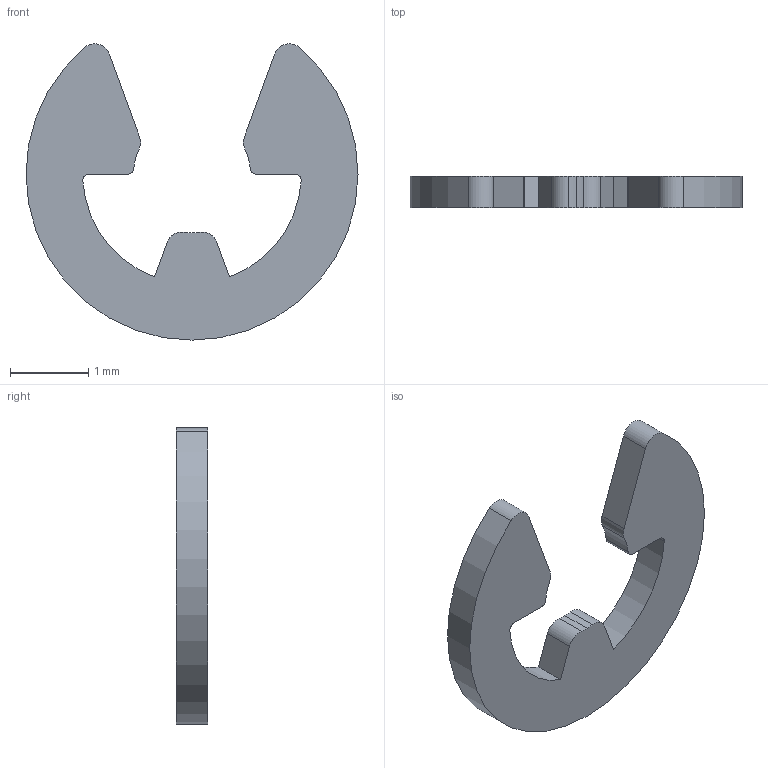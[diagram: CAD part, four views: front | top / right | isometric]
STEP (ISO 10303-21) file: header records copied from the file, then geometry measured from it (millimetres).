
FILE_DESCRIPTION (( 'STEP AP203' ), '1' );
FILE_NAME ('P0382.015-PH.step', '2019-07-25T20:59:16', ( '' ), ( '' ), 'SwSTEP 2.0', 'SolidWorks 2017', '' );
FILE_SCHEMA (( 'CONFIG_CONTROL_DESIGN' ));
Length unit declared in the file: millimetre
Products named in the file (1): P0382.015-PH
Bounding box: 4.25 x 0.4 x 3.79 mm (x, y, z)
Volume: 3.2 mm3; surface area: 24.2 mm2
Topology: 1 solids, 1 shells, 26 faces, 72 edges, 48 vertices
Faces by surface type: cylinder 18, plane 8
Entity records: 929 total; most frequent: DIRECTION 162, CARTESIAN_POINT 147, ORIENTED_EDGE 144, EDGE_CURVE 72, AXIS2_PLACEMENT_3D 63, VERTEX_POINT 48, LINE 36, VECTOR 36
